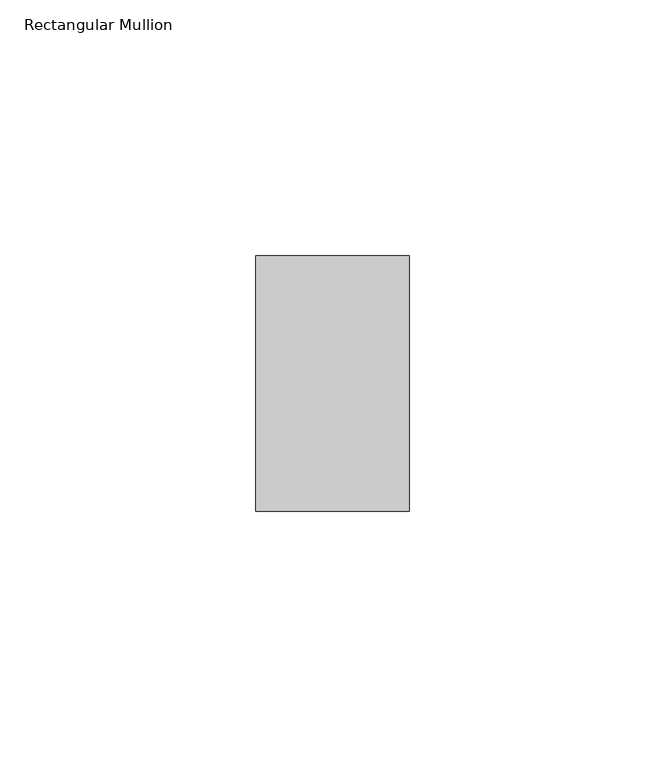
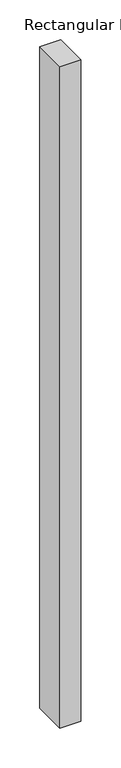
"""IFC4 building model written with IfcOpenShell, lengths in millimetres: member geometry, Rectangular Mullion : ARQ_TV_MULL_50x30mm."""

from ifc_helpers import new_model, si_unit, frame, origin, place, context, project, spatial, polyline, outline, extrude, source, transform, mapped, element, save


def rectangular_mullion_54f8157b(model_context):
    return source(origin(), model_context, "Body", "SweptSolid", [
        extrude(outline(polyline([(15.0, 25.0), (15.0, -25.0), (-15.0, -25.0), (-15.0, 25.0), (15.0, 25.0)])), frame((0.0, 0.0, -1010.1431269), z_axis=(0.0, 0.0, 1.0), x_axis=(1.0, 0.0, 0.0)), (0.0, 0.0, 1.0), 1010.1431269),
    ])


if __name__ == "__main__":
    model = new_model("IFC4")
    model_context = context("Model", 3, world=origin())
    ifc_project = project(units=[si_unit("LENGTHUNIT", "METRE", prefix="MILLI")], contexts=[model_context])
    site = spatial("IfcSite", under=ifc_project)
    building = spatial("IfcBuilding", under=site)
    placement = place(None, origin())
    rectangular_mullion_shape = rectangular_mullion_54f8157b(model_context)
    element("IfcMember", 1, ObjectType="Rectangular Mullion : ARQ_TV_MULL_50x30mm", at=placement, inside=building, context=model_context, shape_type="MappedRepresentation", body=[
        mapped(rectangular_mullion_shape, transform((0.0, 0.0, 0.0), x_axis=(1.0, 0.0, 0.0), y_axis=(0.0, 1.0, 0.0), z_axis=(0.0, 0.0, 1.0))),
    ])
    save(model, "model.ifc")
